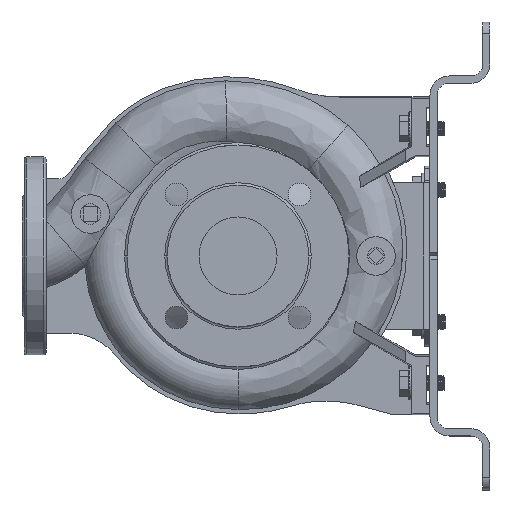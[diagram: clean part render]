
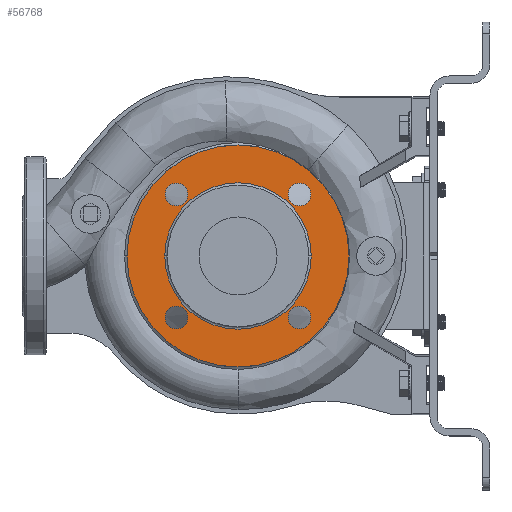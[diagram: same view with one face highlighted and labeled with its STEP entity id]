
A CAD part, left-side view. The second image highlights one B-rep face of the part: STEP entity #56768.
In plain terms, the highlighted planar face has unit normal (-1, 0, 0).
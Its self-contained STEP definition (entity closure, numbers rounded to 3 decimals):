
#343 = EDGE_CURVE ( 'NONE', #3135, #137682, #104225, .T. ) ;
#1095 = DIRECTION ( 'NONE',  ( -1., 0., 0. ) ) ;
#1139 = EDGE_CURVE ( 'NONE', #128206, #44040, #159420, .T. ) ;
#1842 = CARTESIAN_POINT ( 'NONE',  ( -98., 92.5, 0. ) ) ;
#3135 = VERTEX_POINT ( 'NONE', #164982 ) ;
#5546 = VERTEX_POINT ( 'NONE', #120160 ) ;
#6599 = FACE_BOUND ( 'NONE', #43514, .T. ) ;
#7353 = DIRECTION ( 'NONE',  ( 0., -1., 0. ) ) ;
#7877 = DIRECTION ( 'NONE',  ( 0., -1., 0. ) ) ;
#8667 = ORIENTED_EDGE ( 'NONE', *, *, #78481, .F. ) ;
#8921 = CARTESIAN_POINT ( 'NONE',  ( -98., -61., 0. ) ) ;
#10547 = CARTESIAN_POINT ( 'NONE',  ( -98., 0., 0. ) ) ;
#11532 = CARTESIAN_POINT ( 'NONE',  ( -98., -60.765, -51.265 ) ) ;
#12128 = CARTESIAN_POINT ( 'NONE',  ( -98., 0., 0. ) ) ;
#12480 = VERTEX_POINT ( 'NONE', #46902 ) ;
#13747 = ORIENTED_EDGE ( 'NONE', *, *, #119911, .F. ) ;
#14338 = EDGE_CURVE ( 'NONE', #137682, #3135, #62908, .T. ) ;
#16438 = CARTESIAN_POINT ( 'NONE',  ( -98., 51.265, 51.265 ) ) ;
#17956 = EDGE_LOOP ( 'NONE', ( #8667, #44888 ) ) ;
#18425 = CIRCLE ( 'NONE', #21239, 61. ) ;
#19169 = FACE_BOUND ( 'NONE', #26627, .T. ) ;
#19443 = DIRECTION ( 'NONE',  ( -1., 0., 0. ) ) ;
#20903 = AXIS2_PLACEMENT_3D ( 'NONE', #16438, #98038, #71052 ) ;
#21239 = AXIS2_PLACEMENT_3D ( 'NONE', #173719, #130553, #7353 ) ;
#21866 = ORIENTED_EDGE ( 'NONE', *, *, #156576, .T. ) ;
#24960 = AXIS2_PLACEMENT_3D ( 'NONE', #55038, #1095, #42432 ) ;
#26627 = EDGE_LOOP ( 'NONE', ( #161760, #73509 ) ) ;
#34433 = FACE_OUTER_BOUND ( 'NONE', #92168, .T. ) ;
#35372 = AXIS2_PLACEMENT_3D ( 'NONE', #130061, #19443, #157064 ) ;
#36018 = CARTESIAN_POINT ( 'NONE',  ( -98., -51.265, -51.265 ) ) ;
#38205 = ORIENTED_EDGE ( 'NONE', *, *, #1139, .F. ) ;
#42432 = DIRECTION ( 'NONE',  ( 0., 0., 1. ) ) ;
#43514 = EDGE_LOOP ( 'NONE', ( #105246, #130329 ) ) ;
#44040 = VERTEX_POINT ( 'NONE', #152725 ) ;
#44888 = ORIENTED_EDGE ( 'NONE', *, *, #152842, .F. ) ;
#45264 = DIRECTION ( 'NONE',  ( 1., 0., 0. ) ) ;
#46902 = CARTESIAN_POINT ( 'NONE',  ( -98., -41.765, 51.265 ) ) ;
#47600 = EDGE_CURVE ( 'NONE', #143144, #67761, #81577, .T. ) ;
#50381 = CIRCLE ( 'NONE', #70527, 92.5 ) ;
#50405 = DIRECTION ( 'NONE',  ( 0., -1., 0. ) ) ;
#55038 = CARTESIAN_POINT ( 'NONE',  ( -98., 51.265, -51.265 ) ) ;
#56389 = DIRECTION ( 'NONE',  ( 0., 0., -1. ) ) ;
#56768 = ADVANCED_FACE ( 'NONE', ( #114515, #113620, #6599, #19169, #74907, #34433 ), #141523, .F. ) ;
#58057 = ORIENTED_EDGE ( 'NONE', *, *, #88449, .F. ) ;
#62175 = EDGE_LOOP ( 'NONE', ( #38205, #137846 ) ) ;
#62908 = CIRCLE ( 'NONE', #108865, 9.5 ) ;
#65672 = CARTESIAN_POINT ( 'NONE',  ( -98., 51.265, 51.265 ) ) ;
#66946 = DIRECTION ( 'NONE',  ( -1., 0., 0. ) ) ;
#67056 = CARTESIAN_POINT ( 'NONE',  ( -98., 51.265, -51.265 ) ) ;
#67761 = VERTEX_POINT ( 'NONE', #81990 ) ;
#70527 = AXIS2_PLACEMENT_3D ( 'NONE', #89665, #131075, #7877 ) ;
#71052 = DIRECTION ( 'NONE',  ( 0., -1., 0. ) ) ;
#71548 = CIRCLE ( 'NONE', #80139, 9.5 ) ;
#73509 = ORIENTED_EDGE ( 'NONE', *, *, #343, .F. ) ;
#74907 = FACE_BOUND ( 'NONE', #62175, .T. ) ;
#75680 = AXIS2_PLACEMENT_3D ( 'NONE', #105086, #91606, #160881 ) ;
#75940 = AXIS2_PLACEMENT_3D ( 'NONE', #12128, #66946, #159684 ) ;
#78481 = EDGE_CURVE ( 'NONE', #170438, #162871, #176303, .T. ) ;
#79671 = ORIENTED_EDGE ( 'NONE', *, *, #47600, .T. ) ;
#80051 = DIRECTION ( 'NONE',  ( 0., 1., 0. ) ) ;
#80139 = AXIS2_PLACEMENT_3D ( 'NONE', #138266, #122080, #56389 ) ;
#81577 = CIRCLE ( 'NONE', #75940, 92.5 ) ;
#81990 = CARTESIAN_POINT ( 'NONE',  ( -98., -92.5, 0. ) ) ;
#88449 = EDGE_CURVE ( 'NONE', #124681, #12480, #153302, .T. ) ;
#89665 = CARTESIAN_POINT ( 'NONE',  ( -98., 0., 0. ) ) ;
#90892 = DIRECTION ( 'NONE',  ( -1., 0., 0. ) ) ;
#91473 = DIRECTION ( 'NONE',  ( 0., -1., 0. ) ) ;
#91547 = CARTESIAN_POINT ( 'NONE',  ( -98., 41.765, -51.265 ) ) ;
#91606 = DIRECTION ( 'NONE',  ( -1., 0., 0. ) ) ;
#92168 = EDGE_LOOP ( 'NONE', ( #21866, #79671 ) ) ;
#92478 = VERTEX_POINT ( 'NONE', #91547 ) ;
#93205 = DIRECTION ( 'NONE',  ( -1., 0., 0. ) ) ;
#96984 = AXIS2_PLACEMENT_3D ( 'NONE', #155047, #45264, #129801 ) ;
#98038 = DIRECTION ( 'NONE',  ( -1., 0., 0. ) ) ;
#99558 = CIRCLE ( 'NONE', #24960, 9.5 ) ;
#104225 = CIRCLE ( 'NONE', #20903, 9.5 ) ;
#105086 = CARTESIAN_POINT ( 'NONE',  ( -98., -51.265, 51.265 ) ) ;
#105246 = ORIENTED_EDGE ( 'NONE', *, *, #155339, .F. ) ;
#108865 = AXIS2_PLACEMENT_3D ( 'NONE', #65672, #145791, #50405 ) ;
#110088 = CIRCLE ( 'NONE', #35372, 9.5 ) ;
#113620 = FACE_BOUND ( 'NONE', #17956, .T. ) ;
#113719 = CARTESIAN_POINT ( 'NONE',  ( -98., -60.765, 51.265 ) ) ;
#114515 = FACE_BOUND ( 'NONE', #122699, .T. ) ;
#119911 = EDGE_CURVE ( 'NONE', #12480, #124681, #71548, .T. ) ;
#120160 = CARTESIAN_POINT ( 'NONE',  ( -98., 60.765, -51.265 ) ) ;
#121866 = CARTESIAN_POINT ( 'NONE',  ( -98., -41.765, -51.265 ) ) ;
#122080 = DIRECTION ( 'NONE',  ( -1., 0., 0. ) ) ;
#122699 = EDGE_LOOP ( 'NONE', ( #58057, #13747 ) ) ;
#124681 = VERTEX_POINT ( 'NONE', #113719 ) ;
#128206 = VERTEX_POINT ( 'NONE', #8921 ) ;
#129801 = DIRECTION ( 'NONE',  ( 0., 1., 0. ) ) ;
#130061 = CARTESIAN_POINT ( 'NONE',  ( -98., -51.265, -51.265 ) ) ;
#130329 = ORIENTED_EDGE ( 'NONE', *, *, #159264, .F. ) ;
#130553 = DIRECTION ( 'NONE',  ( -1., 0., 0. ) ) ;
#131075 = DIRECTION ( 'NONE',  ( -1., 0., 0. ) ) ;
#137682 = VERTEX_POINT ( 'NONE', #146772 ) ;
#137846 = ORIENTED_EDGE ( 'NONE', *, *, #154385, .F. ) ;
#138266 = CARTESIAN_POINT ( 'NONE',  ( -98., -51.265, 51.265 ) ) ;
#141523 = PLANE ( 'NONE',  #96984 ) ;
#143144 = VERTEX_POINT ( 'NONE', #1842 ) ;
#145791 = DIRECTION ( 'NONE',  ( -1., 0., 0. ) ) ;
#146772 = CARTESIAN_POINT ( 'NONE',  ( -98., 41.765, 51.265 ) ) ;
#147539 = AXIS2_PLACEMENT_3D ( 'NONE', #36018, #90892, #80051 ) ;
#152725 = CARTESIAN_POINT ( 'NONE',  ( -98., 61., 0. ) ) ;
#152842 = EDGE_CURVE ( 'NONE', #162871, #170438, #110088, .T. ) ;
#153302 = CIRCLE ( 'NONE', #75680, 9.5 ) ;
#154385 = EDGE_CURVE ( 'NONE', #44040, #128206, #18425, .T. ) ;
#155047 = CARTESIAN_POINT ( 'NONE',  ( -98., 61., 0. ) ) ;
#155339 = EDGE_CURVE ( 'NONE', #92478, #5546, #173699, .T. ) ;
#156576 = EDGE_CURVE ( 'NONE', #67761, #143144, #50381, .T. ) ;
#157064 = DIRECTION ( 'NONE',  ( 0., 1., 0. ) ) ;
#159264 = EDGE_CURVE ( 'NONE', #5546, #92478, #99558, .T. ) ;
#159420 = CIRCLE ( 'NONE', #170856, 61. ) ;
#159684 = DIRECTION ( 'NONE',  ( 0., -1., 0. ) ) ;
#160881 = DIRECTION ( 'NONE',  ( 0., 0., -1. ) ) ;
#161563 = DIRECTION ( 'NONE',  ( -1., 0., 0. ) ) ;
#161760 = ORIENTED_EDGE ( 'NONE', *, *, #14338, .F. ) ;
#162871 = VERTEX_POINT ( 'NONE', #121866 ) ;
#164226 = DIRECTION ( 'NONE',  ( 0., 0., 1. ) ) ;
#164982 = CARTESIAN_POINT ( 'NONE',  ( -98., 60.765, 51.265 ) ) ;
#165070 = AXIS2_PLACEMENT_3D ( 'NONE', #67056, #161563, #164226 ) ;
#170438 = VERTEX_POINT ( 'NONE', #11532 ) ;
#170856 = AXIS2_PLACEMENT_3D ( 'NONE', #10547, #93205, #91473 ) ;
#173699 = CIRCLE ( 'NONE', #165070, 9.5 ) ;
#173719 = CARTESIAN_POINT ( 'NONE',  ( -98., 0., 0. ) ) ;
#176303 = CIRCLE ( 'NONE', #147539, 9.5 ) ;
